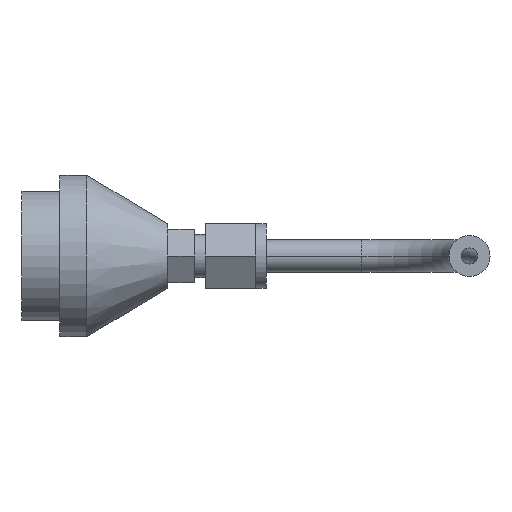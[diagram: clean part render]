
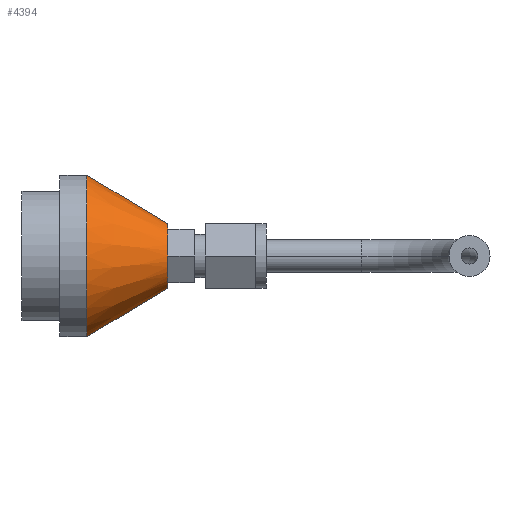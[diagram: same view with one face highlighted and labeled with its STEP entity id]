
A CAD part, front view. The second image highlights one B-rep face of the part: STEP entity #4394.
In plain terms, the highlighted conical face has half-angle 30.964 degrees and reference radius 6 mm.
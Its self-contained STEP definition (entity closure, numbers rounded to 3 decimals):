
#375 = CARTESIAN_POINT ( 'NONE',  ( 5., 0., -15. ) ) ;
#377 = CARTESIAN_POINT ( 'NONE',  ( 5., 0., 15. ) ) ;
#462 = DIRECTION ( 'NONE',  ( -0.857, 0., 0.514 ) ) ;
#463 = VECTOR ( 'NONE', #462, 1000. ) ;
#464 = CARTESIAN_POINT ( 'NONE',  ( 20., 0., 6. ) ) ;
#465 = LINE ( 'NONE', #464, #463 ) ;
#466 = DIRECTION ( 'NONE',  ( -0.857, 0., -0.514 ) ) ;
#467 = VECTOR ( 'NONE', #466, 1000. ) ;
#468 = CARTESIAN_POINT ( 'NONE',  ( 20., 0., -6. ) ) ;
#469 = LINE ( 'NONE', #468, #467 ) ;
#470 = CARTESIAN_POINT ( 'NONE',  ( 20., 0., -6. ) ) ;
#471 = CARTESIAN_POINT ( 'NONE',  ( 20., 0., 6. ) ) ;
#2090 = DIRECTION ( 'NONE',  ( 0., 0., 1. ) ) ;
#2091 = DIRECTION ( 'NONE',  ( -1., 0., 0. ) ) ;
#2092 = CARTESIAN_POINT ( 'NONE',  ( 5., 0., 0. ) ) ;
#2093 = AXIS2_PLACEMENT_3D ( 'NONE', #2092, #2091, #2090 ) ;
#2094 = CIRCLE ( 'NONE', #2093, 15. ) ;
#2212 = DIRECTION ( 'NONE',  ( 0., 0., 1. ) ) ;
#2213 = DIRECTION ( 'NONE',  ( -1., 0., 0. ) ) ;
#2214 = CARTESIAN_POINT ( 'NONE',  ( 20., 0., 0. ) ) ;
#2215 = AXIS2_PLACEMENT_3D ( 'NONE', #2214, #2213, #2212 ) ;
#2216 = CIRCLE ( 'NONE', #2215, 6. ) ;
#2763 = DIRECTION ( 'NONE',  ( 0., 0., 1. ) ) ;
#2764 = DIRECTION ( 'NONE',  ( -1., 0., 0. ) ) ;
#2765 = CARTESIAN_POINT ( 'NONE',  ( 20., 0., 0. ) ) ;
#2766 = AXIS2_PLACEMENT_3D ( 'NONE', #2765, #2764, #2763 ) ;
#2767 = CONICAL_SURFACE ( 'NONE', #2766, 6., 0.54 ) ;
#2768 = FACE_OUTER_BOUND ( 'NONE', #4395, .T. ) ;
#3187 = VERTEX_POINT ( 'NONE', #377 ) ;
#3188 = VERTEX_POINT ( 'NONE', #375 ) ;
#3230 = VERTEX_POINT ( 'NONE', #471 ) ;
#3231 = VERTEX_POINT ( 'NONE', #470 ) ;
#3233 = EDGE_CURVE ( 'NONE', #3231, #3188, #469, .T. ) ;
#3236 = EDGE_CURVE ( 'NONE', #3230, #3187, #465, .T. ) ;
#3878 = EDGE_CURVE ( 'NONE', #3188, #3187, #2094, .T. ) ;
#3975 = EDGE_CURVE ( 'NONE', #3231, #3230, #2216, .T. ) ;
#4394 = ADVANCED_FACE ( 'NONE', ( #2768 ), #2767, .T. ) ;
#4395 = EDGE_LOOP ( 'NONE', ( #4396, #4397, #4398, #4399 ) ) ;
#4396 = ORIENTED_EDGE ( 'NONE', *, *, #3233, .F. ) ;
#4397 = ORIENTED_EDGE ( 'NONE', *, *, #3975, .T. ) ;
#4398 = ORIENTED_EDGE ( 'NONE', *, *, #3236, .T. ) ;
#4399 = ORIENTED_EDGE ( 'NONE', *, *, #3878, .F. ) ;
